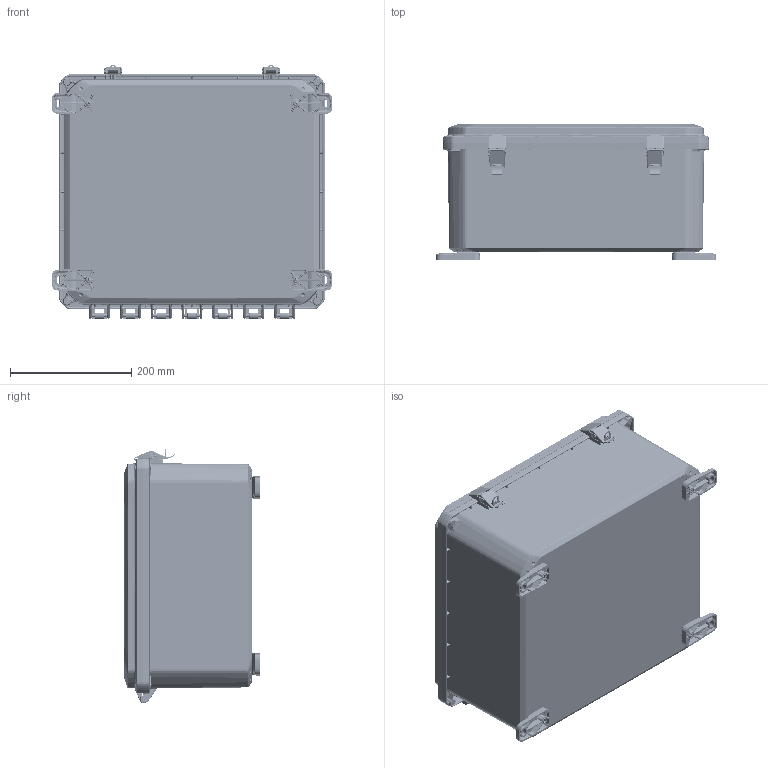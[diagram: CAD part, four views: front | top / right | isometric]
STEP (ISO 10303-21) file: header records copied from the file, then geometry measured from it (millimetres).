
FILE_DESCRIPTION (( 'STEP AP214' ), '1' );
FILE_NAME ('ZH-161407-05.STEP', '2024-06-17T11:59:52', ( '' ), ( '' ), 'SwSTEP 2.0', 'SolidWorks 2024', '' );
FILE_SCHEMA (( 'AUTOMOTIVE_DESIGN' ));
Length unit declared in the file: inch
Products named in the file (17): Z_-16141CG_ZH-16141CG-02; ZH-01L3; SCREWS-046_SCREWS-046; Z_-16147B_ZH-16147B-01; Z_-16141C_ZH-16141C-02; ZH-01L4; ZH-1614G; ZH-01L5; LABEL-104; ZH-01L1; Z_-16147BI_ZH-16147BI-01; ZH-01L2; ZH-95P_DEFAULT; ZH-01F_ZH-01F-01; ZH-01L; INSERTS-4; ZH-161407-05
Assembly tree (37 placements, depth 3):
  ZH-161407-05
    Z_-16147BI_ZH-16147BI-01
      Z_-16147B_ZH-16147B-01
      INSERTS-4  x12
      LABEL-104
    Z_-16141CG_ZH-16141CG-02
      Z_-16141C_ZH-16141C-02
      ZH-1614G
    ZH-95P_DEFAULT  x4
    ZH-01L  x2
      ZH-01L1
      ZH-01L2
      ZH-01L3
      ZH-01L4
      ZH-01L5
    ZH-01F_ZH-01F-01  x4
    SCREWS-046_SCREWS-046  x4
Bounding box: 462.39 x 222.33 x 419.06 mm (x, y, z)
Volume: 3203174.1 mm3; surface area: 1512769.4 mm2
Topology: 42 solids, 42 shells, 10057 faces, 24461 edges, 14430 vertices
Faces by surface type: bspline 2960, cylinder 2223, plane 2104, cone 1440, torus 1088, sphere 242
Entity records: 329157 total; most frequent: CARTESIAN_POINT 191390, ORIENTED_EDGE 31416, DIRECTION 25960, EDGE_CURVE 15708, AXIS2_PLACEMENT_3D 10646, VERTEX_POINT 9216, EDGE_LOOP 6894, FACE_OUTER_BOUND 6674
